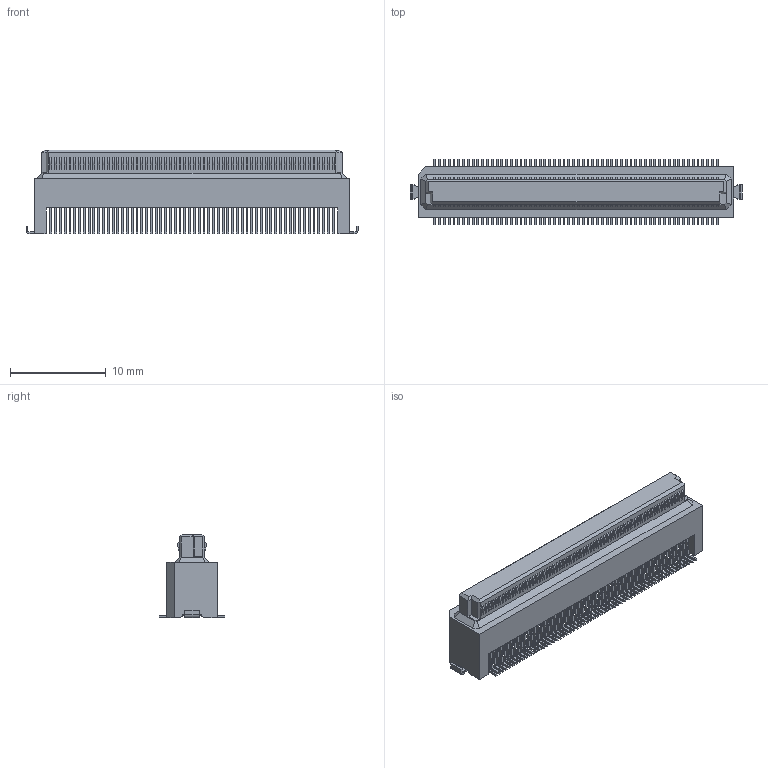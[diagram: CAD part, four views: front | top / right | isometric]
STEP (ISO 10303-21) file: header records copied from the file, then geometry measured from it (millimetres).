
FILE_DESCRIPTION(('Creo Elements/Direct Modeling STEP Export'),'2;1');
FILE_NAME('P39894_DY10-120S-6.stp','2020-02-11T17:22:25',(''),(''),'Creo Elements/Direct Modeling STEP processor for AP214 (Solid Model)','Creo Elements/Direct Modeling 19.0F 14-Feb-2017 (C) Parametric Technology GmbH','');
FILE_SCHEMA(('AUTOMOTIVE_DESIGN { 1 0 10303 214 1 1 1 1 }'));
Length unit declared in the file: millimetre
Products named in the file (6): p1.3; p1.2; p1.1; p1; DY10-120S-6; Assembly1
Assembly tree (1 placements, depth 2):
  p1.3
  p1.2
  p1.1
  p1
  Assembly1
    DY10-120S-6
Bounding box: 34.7 x 6.8 x 8.73 mm (x, y, z)
Volume: 766.1 mm3; surface area: 1272.7 mm2
Topology: 1 solids, 1 shells, 2626 faces, 7003 edges, 4502 vertices
Faces by surface type: plane 2014, cylinder 612
Entity records: 80616 total; most frequent: CARTESIAN_POINT 14133, ORIENTED_EDGE 14006, DIRECTION 13483, EDGE_CURVE 7003, VECTOR 5779, LINE 5779, VERTEX_POINT 4502, AXIS2_PLACEMENT_3D 3852
